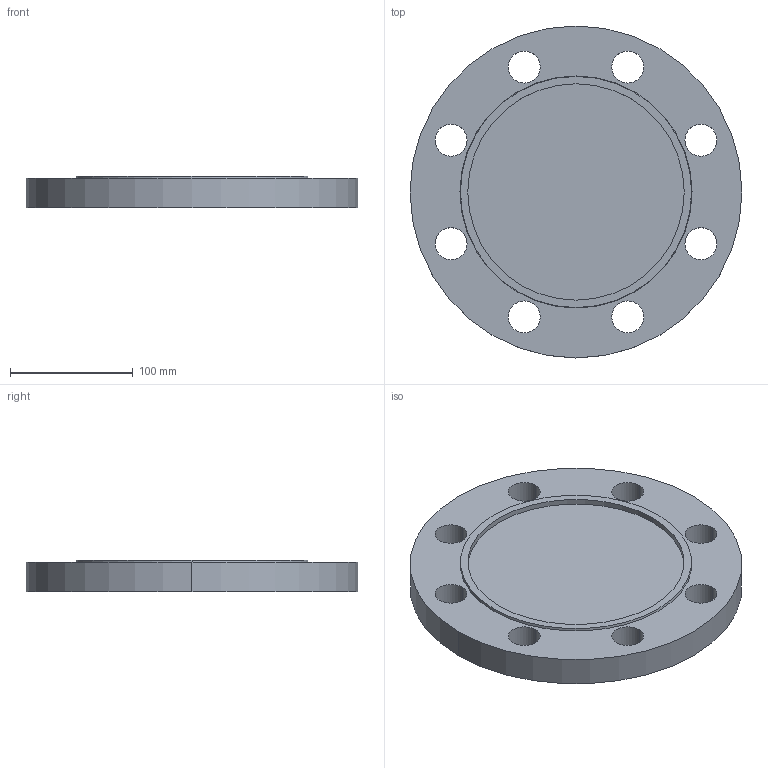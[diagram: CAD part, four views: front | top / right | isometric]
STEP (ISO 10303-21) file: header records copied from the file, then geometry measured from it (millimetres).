
FILE_DESCRIPTION (( 'STEP AP214' ), '1' );
FILE_NAME ('PN40 DN125 Type 05 - Type F Face.STEP', '2019-01-02T19:29:05', ( '' ), ( '' ), 'SwSTEP 2.0', 'SolidWorks 2019', '' );
FILE_SCHEMA (( 'AUTOMOTIVE_DESIGN' ));
Length unit declared in the file: millimetre
Products named in the file (1): PN40 DN125 Type 05 - Type F Face
Bounding box: 270 x 270 x 26 mm (x, y, z)
Volume: 1218442.8 mm3; surface area: 145537.7 mm2
Topology: 1 solids, 1 shells, 26 faces, 66 edges, 44 vertices
Faces by surface type: cylinder 20, plane 4, cone 2
Entity records: 880 total; most frequent: DIRECTION 164, CARTESIAN_POINT 137, ORIENTED_EDGE 132, AXIS2_PLACEMENT_3D 71, EDGE_CURVE 66, CIRCLE 44, VERTEX_POINT 44, EDGE_LOOP 44
